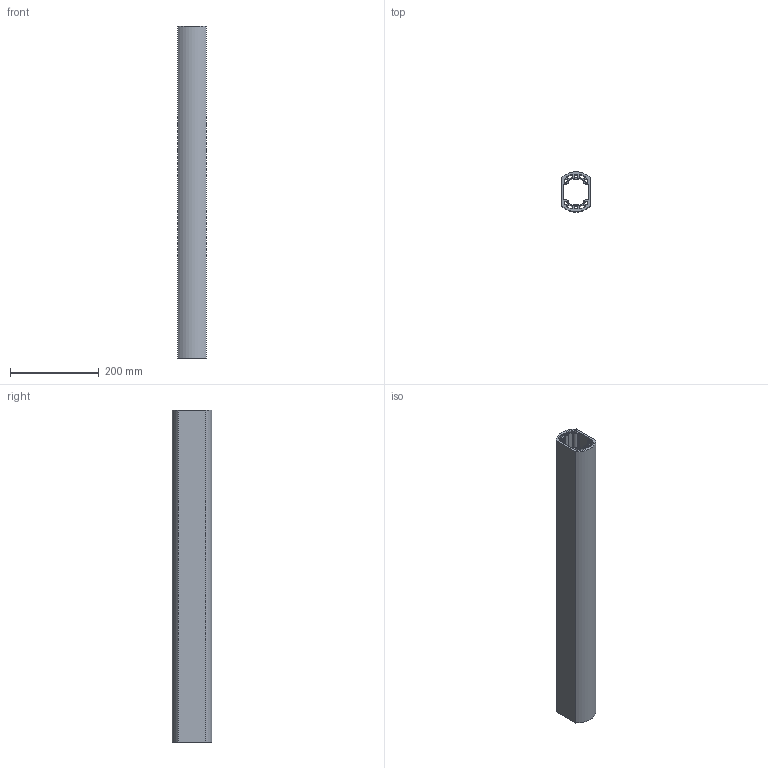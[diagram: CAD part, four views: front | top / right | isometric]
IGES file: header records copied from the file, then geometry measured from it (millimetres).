
Start section:  PTC IGES file: sce-sa30tc.igs
Global section: file name: sce-sa30tc.igs; native system: Creo Parametric by PTC Inc.; preprocessor: 2017260; author: dougp; organization: Unknown; date: 20181204.112318; units: inch
Bounding box: 65 x 90 x 750.06 mm (x, y, z)
Surface area: 573673.9 mm2 (no closed solid volume)
Topology: 0 solids, 0 shells, 82 faces, 480 edges, 480 vertices
Faces by surface type: bspline 82
